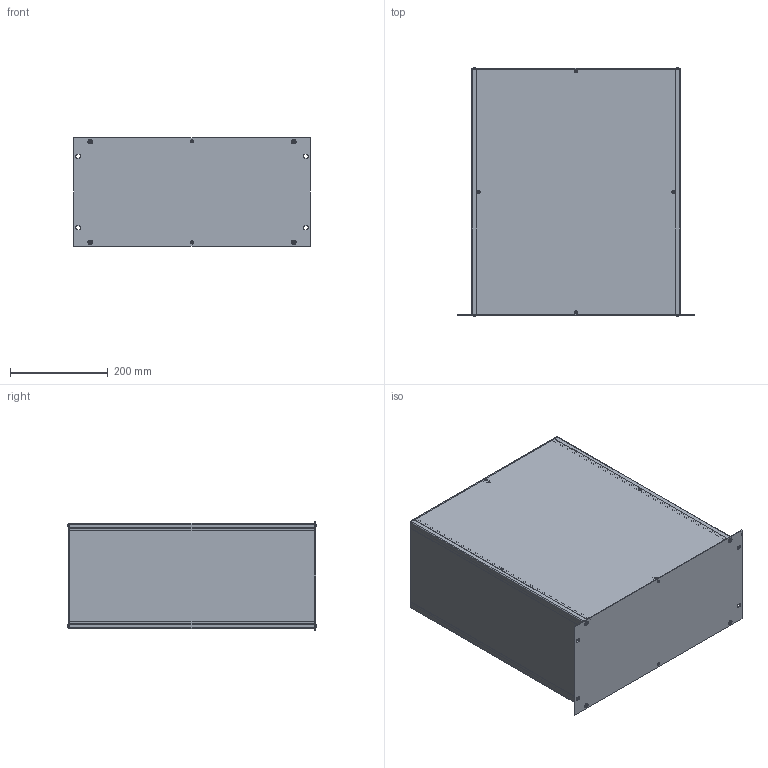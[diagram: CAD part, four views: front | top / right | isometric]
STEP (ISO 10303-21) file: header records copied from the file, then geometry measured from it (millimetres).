
FILE_DESCRIPTION(/* description */ (''),/* implementation_level */ '2;1');
FILE_NAME(/* name */ '//diskstation/Kunden/Gehäuse/Gehäuse/5HE/step/19 Zoll 5HE Rack Gehäuse Tiefe-500.step',/* time_stamp */ '2022-02-17T16:22:15+01:00',/* author */ (''),/* organization */ (''),/* preprocessor_version */ 'ST-DEVELOPER v18.1',/* originating_system */ 'Autodesk Translation Framework v10.10.0.1391',/* authorisation */ '');
FILE_SCHEMA (('AUTOMOTIVE_DESIGN { 1 0 10303 214 3 1 1 }'));
Length unit declared in the file: millimetre
Products named in the file (28): 5HE Gehäuse mit parametern; Gehäuse; Gehäuseprofil 1 unten links; Gehäuseprofil 2 oben rechts; Gehäuseprofil 1 unten rechts; Gehäuseprofil 2 oben links; Rückplatte; Deckel; Seitenteil links; Seitenteil rechts; Bodenplatte; Montageklotz Front/Deckel; Montageklotz Front/Boden; Montageklotz Rück/Deckel; Montageklotz Rück/Boden; Gewindestreifen; Frontplatte; Schrauben M5; Schraube Front; Schraube Front (1); Schraube Front (2); Schraube Front (3); Schraube Rück (1); Schraube Rück; Schraube Rück (2); Schraube Rück (3); Schrauben M3; HI_Senkschraube DIN 965 A v2 M3x5 24677.030.005(High)
Assembly tree (37 placements, depth 3):
  5HE Gehäuse mit parametern
    Gehäuse
      Gehäuseprofil 1 unten links
      Gehäuseprofil 2 oben rechts
      Gehäuseprofil 1 unten rechts
      Gehäuseprofil 2 oben links
      Rückplatte
      Deckel
      Seitenteil links
      Seitenteil rechts
      Bodenplatte
      Montageklotz Front/Deckel
      Montageklotz Front/Boden
      Montageklotz Rück/Deckel
      Montageklotz Rück/Boden
      Gewindestreifen  x2
    Frontplatte
    Schrauben M5
      Schraube Front
      Schraube Front (1)
      Schraube Front (2)
      Schraube Front (3)
      Schraube Rück (1)
      Schraube Rück
      Schraube Rück (2)
      Schraube Rück (3)
    Schrauben M3
      HI_Senkschraube DIN 965 A v2 M3x5 24677.030.005(High)  x10
Bounding box: 483 x 508.2 x 221.4 mm (x, y, z)
Volume: 2103739.9 mm3; surface area: 1829296.1 mm2
Topology: 34 solids, 34 shells, 944 faces, 2346 edges, 1470 vertices
Faces by surface type: cylinder 422, plane 342, cone 164, torus 8, bspline 8
Full cylindrical faces by diameter (mm): 2.529 x180, 3 x10, 3.2 x10, 4.234 x40, 5 x8, 5.2 x4, 5.3 x8, 5.6 x10, 9.5 x8
Entity records: 18600 total; most frequent: CARTESIAN_POINT 3348, DIRECTION 3135, ORIENTED_EDGE 2760, EDGE_CURVE 1380, AXIS2_PLACEMENT_3D 1195, VERTEX_POINT 868, EDGE_LOOP 866, LINE 745
